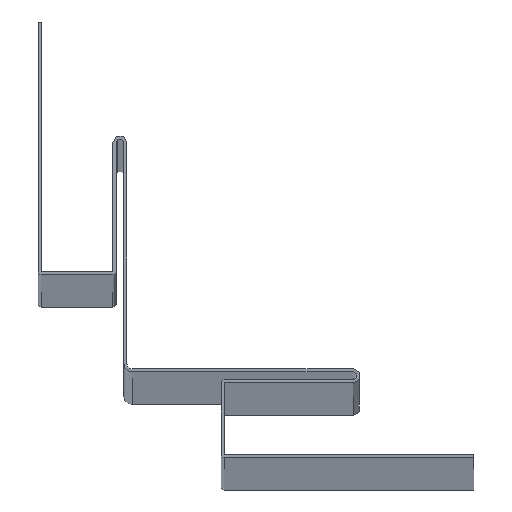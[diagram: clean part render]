
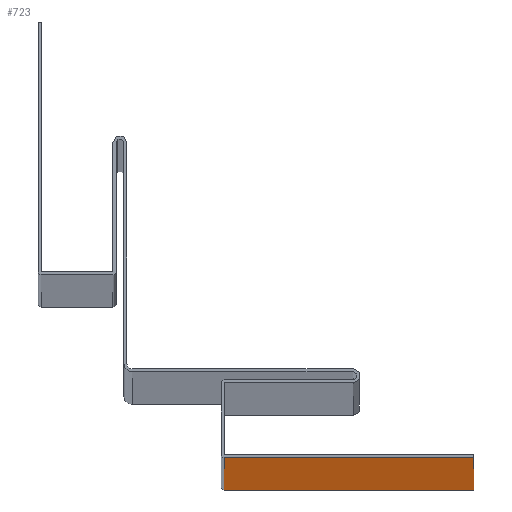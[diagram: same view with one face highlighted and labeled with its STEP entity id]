
A CAD part, top view. The second image highlights one B-rep face of the part: STEP entity #723.
In plain terms, the highlighted planar face has unit normal (0, -1, 0).
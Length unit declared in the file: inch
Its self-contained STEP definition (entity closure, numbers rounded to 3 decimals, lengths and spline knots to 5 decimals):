
#7 = LINE ( 'NONE', #55, #330 ) ;
#8 = LINE ( 'NONE', #566, #470 ) ;
#27 = EDGE_LOOP ( 'NONE', ( #196, #617, #640, #194 ) ) ;
#34 = CARTESIAN_POINT ( 'NONE',  ( 0.63, -0.55, 0. ) ) ;
#51 = DIRECTION ( 'NONE',  ( 1., 0., 0. ) ) ;
#55 = CARTESIAN_POINT ( 'NONE',  ( 0.63, -0.55, 120. ) ) ;
#98 = CARTESIAN_POINT ( 'NONE',  ( 2.235, -0.55, 0. ) ) ;
#117 = CARTESIAN_POINT ( 'NONE',  ( 0.63, -0.55, 120. ) ) ;
#149 = VECTOR ( 'NONE', #51, 39.37008 ) ;
#194 = ORIENTED_EDGE ( 'NONE', *, *, #994, .T. ) ;
#196 = ORIENTED_EDGE ( 'NONE', *, *, #327, .T. ) ;
#242 = VERTEX_POINT ( 'NONE', #265 ) ;
#265 = CARTESIAN_POINT ( 'NONE',  ( 0.63, -0.55, 0. ) ) ;
#278 = DIRECTION ( 'NONE',  ( 0., 1., 0. ) ) ;
#285 = AXIS2_PLACEMENT_3D ( 'NONE', #117, #278, #754 ) ;
#327 = EDGE_CURVE ( 'NONE', #242, #748, #408, .T. ) ;
#330 = VECTOR ( 'NONE', #389, 39.37008 ) ;
#356 = VECTOR ( 'NONE', #647, 39.37008 ) ;
#368 = EDGE_CURVE ( 'NONE', #578, #455, #7, .T. ) ;
#389 = DIRECTION ( 'NONE',  ( 1., 0., 0. ) ) ;
#408 = LINE ( 'NONE', #34, #149 ) ;
#455 = VERTEX_POINT ( 'NONE', #955 ) ;
#470 = VECTOR ( 'NONE', #525, 39.37008 ) ;
#525 = DIRECTION ( 'NONE',  ( 0., 0., -1. ) ) ;
#540 = LINE ( 'NONE', #770, #356 ) ;
#566 = CARTESIAN_POINT ( 'NONE',  ( 0.63, -0.55, 120. ) ) ;
#578 = VERTEX_POINT ( 'NONE', #776 ) ;
#616 = FACE_OUTER_BOUND ( 'NONE', #27, .T. ) ;
#617 = ORIENTED_EDGE ( 'NONE', *, *, #1070, .F. ) ;
#640 = ORIENTED_EDGE ( 'NONE', *, *, #368, .F. ) ;
#647 = DIRECTION ( 'NONE',  ( 0., 0., -1. ) ) ;
#723 = ADVANCED_FACE ( 'NONE', ( #616 ), #801, .F. ) ;
#748 = VERTEX_POINT ( 'NONE', #98 ) ;
#754 = DIRECTION ( 'NONE',  ( -1., 0., 0. ) ) ;
#770 = CARTESIAN_POINT ( 'NONE',  ( 2.235, -0.55, 120. ) ) ;
#776 = CARTESIAN_POINT ( 'NONE',  ( 0.63, -0.55, 120. ) ) ;
#801 = PLANE ( 'NONE',  #285 ) ;
#955 = CARTESIAN_POINT ( 'NONE',  ( 2.235, -0.55, 120. ) ) ;
#994 = EDGE_CURVE ( 'NONE', #578, #242, #8, .T. ) ;
#1070 = EDGE_CURVE ( 'NONE', #455, #748, #540, .T. ) ;
